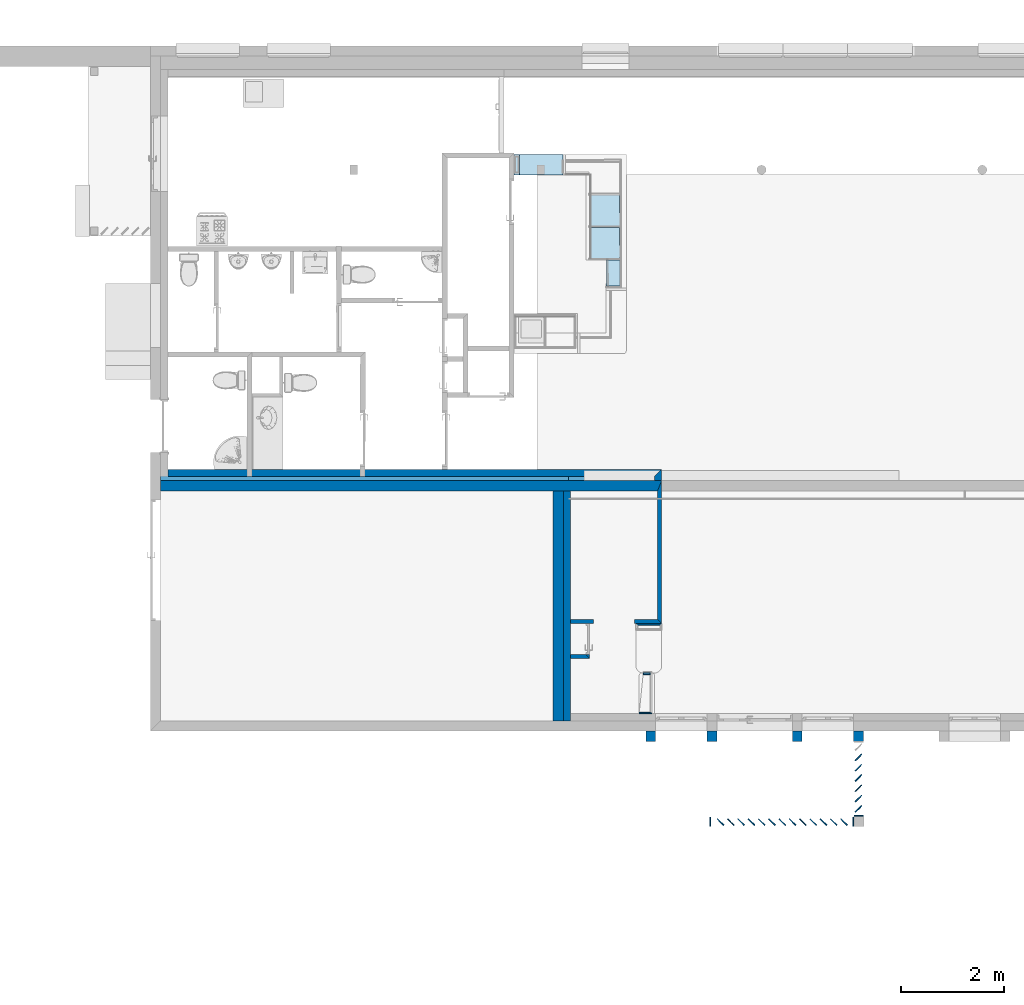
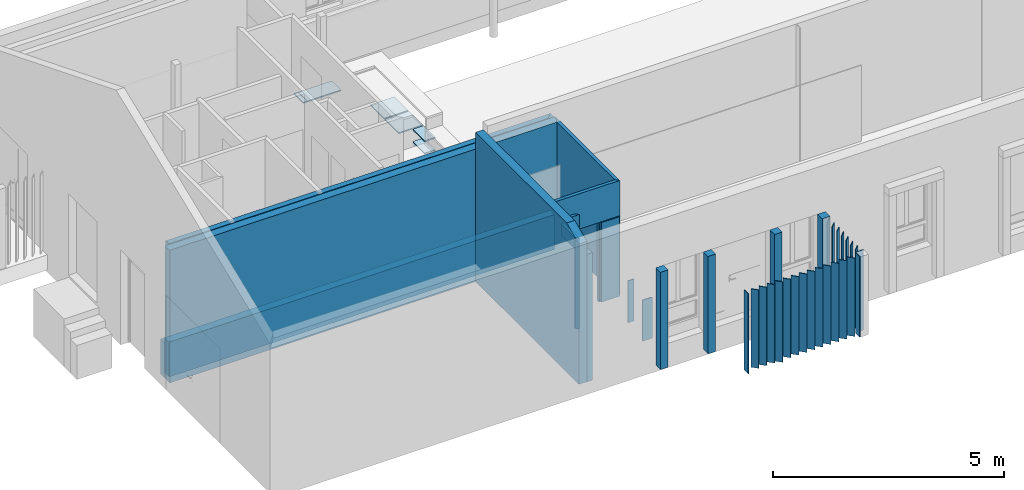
# One storey, part 2 of 34: 40 walls, 6 slabs, 2 openings.
"""IFC2X3 building model written with IfcOpenShell, lengths in metres."""

from ifc_helpers import new_model, entity, si_unit, converted_unit, derived_unit, money_unit, direction, frame, origin_with_axes, origin_2d_with_axis, place, context, subcontext, project, spatial, polyline, rectangle, outline, extrude, clip, halfspace, material, layer, layer_set, layer_usage, type_object, element, save


model = new_model("IFC2X3")

# Units and contexts
model_context = context("Model", 3, precision=1e-05, world=origin_with_axes(), true_north=direction((0.0, 1.0)))
body_context = subcontext(model_context, "Body", "Model", "MODEL_VIEW")
ifc_project = project(units=[si_unit("LENGTHUNIT", "METRE"), si_unit("AREAUNIT", "SQUARE_METRE"), si_unit("VOLUMEUNIT", "CUBIC_METRE"), converted_unit("PLANEANGLEUNIT", "DEGREE", entity("IfcPlaneAngleMeasure", 0.0174532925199), si_unit("PLANEANGLEUNIT", "RADIAN"), dimensions=[0, 0, 0, 0, 0, 0, 0]), money_unit("CHF"), converted_unit("TIMEUNIT", "Year", entity("IfcTimeMeasure", 31556926.0), si_unit("TIMEUNIT", "SECOND"), dimensions=[0, 0, 1, 0, 0, 0, 0]), si_unit("MASSUNIT", "GRAM", prefix="KILO"), si_unit("THERMODYNAMICTEMPERATUREUNIT", "DEGREE_CELSIUS"), si_unit("LUMINOUSINTENSITYUNIT", "LUMEN"), si_unit("ENERGYUNIT", "JOULE", prefix="MEGA"), derived_unit("THERMALCONDUCTANCEUNIT", [(si_unit("POWERUNIT", "WATT"), 1), (si_unit("LENGTHUNIT", "METRE"), -1), (si_unit("THERMODYNAMICTEMPERATUREUNIT", "KELVIN"), -1)]), derived_unit("SPECIFICHEATCAPACITYUNIT", [(si_unit("ENERGYUNIT", "JOULE"), 1), (si_unit("MASSUNIT", "GRAM", prefix="KILO"), -1), (si_unit("THERMODYNAMICTEMPERATUREUNIT", "KELVIN"), -1)]), derived_unit("MASSDENSITYUNIT", [(si_unit("MASSUNIT", "GRAM", prefix="KILO"), 1), (si_unit("VOLUMEUNIT", "CUBIC_METRE"), -1)])], contexts=[model_context])

# Site, building, storey
site_placement = place(None, origin_with_axes())
site = spatial("IfcSite", under=ifc_project, at=site_placement, Name="Site", CompositionType="ELEMENT")
building_placement = place(site_placement, origin_with_axes())
building = spatial("IfcBuilding", under=site, at=building_placement, Name="Bâtiment", CompositionType="ELEMENT")
storey_placement = place(building_placement, origin_with_axes())
storey = spatial("IfcBuildingStorey", under=building, at=storey_placement, Name="RDC", CompositionType="ELEMENT", Elevation=-5.32907e-15)

# Slabs
ifc_material_1 = material(Name="Sans Trame 1167258944")
ifc_layer_1 = layer(ifc_material_1, 0.03, ventilated="UNKNOWN")
ifc_layer_set_1 = layer_set([ifc_layer_1], Name="Sans Trame 1167258944 0.03")
ifc_layer_usage_1 = layer_usage(ifc_layer_set_1, "AXIS3", "NEGATIVE", 0.03)
slab_type_1 = type_object("IfcSlabType", Name="Sans Trame 1167258944 30", PredefinedType="FLOOR")
slab_1_placement = place(storey_placement, frame((1676.54077854, 187.170122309, 0.944996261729), z_axis=(0.0, 0.0, 1.0), x_axis=(1.0, 0.0, 0.0)))
element("IfcSlab", 1, at=slab_1_placement, inside=storey, type_object=slab_type_1, material=ifc_layer_usage_1, Name="Dalle-13", PredefinedType="FLOOR", context=body_context, shape_type="SweptSolid", body=[
    extrude(outline(polyline([(0.0, 0.0), (-0.599960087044, -0.00107291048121), (-0.598889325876, -0.599843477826), (0.00107078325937, -0.598770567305), (0.0, 0.0)])), frame((0.0, 0.0, -0.03), z_axis=(0.0, 0.0, 1.0), x_axis=(1.0, 0.0, 0.0)), (0.0, 0.0, 1.0), 0.03),
])
ifc_layer_usage_2 = layer_usage(ifc_layer_set_1, "AXIS3", "NEGATIVE", 0.03)
slab_2_placement = place(storey_placement, frame((1676.27164334, 186.539627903, 0.619992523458), z_axis=(0.0, 0.0, 1.0), x_axis=(1.0, 0.0, 0.0)))
element("IfcSlab", 2, at=slab_2_placement, inside=storey, type_object=slab_type_1, material=ifc_layer_usage_2, Name="Dalle-13", PredefinedType="FLOOR", context=body_context, shape_type="SweptSolid", body=[
    extrude(outline(polyline([(0.0, 0.0), (0.000692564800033, -0.512173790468), (0.27109865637, -0.512173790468), (0.270405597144, 0.0003656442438), (0.0, 0.0)])), frame((0.0, 0.0, -0.03), z_axis=(0.0, 0.0, 1.0), x_axis=(1.0, 0.0, 0.0)), (0.0, 0.0, 1.0), 0.03),
])
ifc_layer_usage_3 = layer_usage(ifc_layer_set_1, "AXIS3", "NEGATIVE", 0.03)
slab_3_placement = place(storey_placement, frame((1676.27164334, 186.539627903, 0.944996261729), z_axis=(0.0, 0.0, 1.0), x_axis=(1.0, 0.0, 0.0)))
element("IfcSlab", 3, at=slab_3_placement, inside=storey, type_object=slab_type_1, material=ifc_layer_usage_3, Name="Dalle-13", PredefinedType="FLOOR", context=body_context, shape_type="SweptSolid", body=[
    extrude(outline(polyline([(0.0, 0.0), (0.000692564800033, -0.512173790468), (0.27109865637, -0.512173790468), (0.270405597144, 0.0003656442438), (0.0, 0.0)])), frame((0.0, 0.0, -0.03), z_axis=(0.0, 0.0, 1.0), x_axis=(1.0, 0.0, 0.0)), (0.0, 0.0, 1.0), 0.03),
])
ifc_layer_2 = layer(ifc_material_1, 0.028, ventilated="UNKNOWN")
ifc_layer_set_2 = layer_set([ifc_layer_2], Name="Sans Trame 1167258944 0.028")
ifc_layer_usage_4 = layer_usage(ifc_layer_set_2, "AXIS3", "NEGATIVE", 0.028)
slab_type_2 = type_object("IfcSlabType", Name="Sans Trame 1167258944 28", PredefinedType="FLOOR")
slab_4_placement = place(storey_placement, frame((1674.59097684, 188.590088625, 1.27), z_axis=(0.0, 0.0, 1.0), x_axis=(1.0, 0.0, 0.0)))
element("IfcSlab", 4, at=slab_4_placement, inside=storey, type_object=slab_type_2, material=ifc_layer_usage_4, Name="Dalle-16", PredefinedType="FLOOR", context=body_context, shape_type="SweptSolid", body=[
    extrude(outline(polyline([(0.0, 0.0), (-0.100080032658, 0.0), (-0.100080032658, -0.400211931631), (0.0, -0.400188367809), (0.0, 0.0)])), frame((0.0, 0.0, -0.028), z_axis=(0.0, 0.0, 1.0), x_axis=(1.0, 0.0, 0.0)), (0.0, 0.0, 1.0), 0.028),
])
ifc_material_2 = material(Name="50 % 1167783752")
ifc_layer_3 = layer(ifc_material_2, 0.028, ventilated="UNKNOWN")
ifc_layer_set_3 = layer_set([ifc_layer_3], Name="50 % 1167783752 0.028")
ifc_layer_usage_5 = layer_usage(ifc_layer_set_3, "AXIS3", "NEGATIVE", 0.028)
slab_type_3 = type_object("IfcSlabType", Name="50 % 1167783752 28", PredefinedType="FLOOR")
slab_5_placement = place(storey_placement, frame((1675.43897685, 188.590087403, 1.27), z_axis=(0.0, 0.0, 1.0), x_axis=(1.0, 0.0, 0.0)))
element("IfcSlab", 5, at=slab_5_placement, inside=storey, type_object=slab_type_3, material=ifc_layer_usage_5, Name="Dalle-16", PredefinedType="FLOOR", context=body_context, shape_type="SweptSolid", body=[
    extrude(outline(polyline([(0.0, 0.0), (-0.847800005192, 1.2219437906e-06), (-0.847800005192, -0.400187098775), (9.41632778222e-05, -0.399977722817), (0.0, 0.0)])), frame((0.0, 0.0, -0.028), z_axis=(0.0, 0.0, 1.0), x_axis=(1.0, 0.0, 0.0)), (0.0, 0.0, 1.0), 0.028),
])
ifc_layer_4 = layer(ifc_material_2, 0.03, ventilated="UNKNOWN")
ifc_layer_set_4 = layer_set([ifc_layer_4], Name="50 % 1167783752 0.03")
ifc_layer_usage_6 = layer_usage(ifc_layer_set_4, "AXIS3", "NEGATIVE", 0.03)
slab_type_4 = type_object("IfcSlabType", Name="50 % 1167783752 30", PredefinedType="FLOOR")
slab_6_placement = place(storey_placement, frame((1676.54078561, 187.800121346, 0.944996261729), z_axis=(0.0, 0.0, 1.0), x_axis=(1.0, 0.0, 0.0)))
element("IfcSlab", 6, at=slab_6_placement, inside=storey, type_object=slab_type_4, material=ifc_layer_usage_6, Name="Dalle-13", PredefinedType="FLOOR", context=body_context, shape_type="SweptSolid", body=[
    extrude(outline(polyline([(0.0, 0.0), (-0.599960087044, -0.00107291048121), (-0.598889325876, -0.599843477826), (0.00107078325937, -0.598770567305), (0.0, 0.0)])), frame((0.0, 0.0, -0.03), z_axis=(0.0, 0.0, 1.0), x_axis=(1.0, 0.0, 0.0)), (0.0, 0.0, 1.0), 0.03),
])

# Walls
ifc_material_3 = material(Name="Diagonales 1167258944")
ifc_layer_5 = layer(ifc_material_3, 0.2, ventilated="UNKNOWN")
ifc_layer_set_5 = layer_set([ifc_layer_5], Name="Diagonales 1167258944 0.2")
ifc_layer_usage_7 = layer_usage(ifc_layer_set_5, "AXIS2", "POSITIVE", 0.0)
wall_type_1 = type_object("IfcWallType", Name="Diagonales 1167258944 200", PredefinedType="NOTDEFINED")
wall_1_placement = place(storey_placement, frame((1675.44729001, 177.38004191, 0.0), z_axis=(0.0, 0.0, 1.0), x_axis=(0.0, 1.0, 0.0)))
element("IfcWallStandardCase", 7, at=wall_1_placement, inside=storey, type_object=wall_type_1, material=ifc_layer_usage_7, Name="Mur-005", context=body_context, shape_type="Clipping", body=[
    clip(extrude(outline(polyline([(0.2, 0.0), (4.67, 0.0), (4.67, 0.2), (0.2, 0.2), (0.2, 0.0)])), origin_with_axes(), (0.0, 0.0, 1.0), 3.94000008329), halfspace(frame((-1.35194463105, 0.0, 3.00400550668), z_axis=(0.410400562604, 0.0, -0.911905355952), x_axis=(0.0, 1.0, 0.0)), True)),
])
ifc_layer_usage_8 = layer_usage(ifc_layer_set_5, "AXIS2", "POSITIVE", 0.0)
wall_2_placement = place(storey_placement, frame((1667.71629042, 182.25004191, 0.0), z_axis=(0.0, 0.0, 1.0), x_axis=(1.0, 0.0, 0.0)))
element("IfcWallStandardCase", 8, at=wall_2_placement, inside=storey, type_object=wall_type_1, material=ifc_layer_usage_8, Name="Mur-002", context=body_context, shape_type="SweptSolid", body=[
    extrude(outline(polyline([(0.0, 0.0), (9.62021639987, 0.0), (9.62021639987, 0.2), (0.0, 0.2), (0.0, 0.0)])), origin_with_axes(), (0.0, 0.0, 1.0), 0.92),
])
ifc_layer_usage_9 = layer_usage(ifc_layer_set_5, "AXIS2", "NEGATIVE", 0.0)
wall_3_placement = place(storey_placement, frame((1677.35650684, 182.05004191, 0.0), z_axis=(0.0, 0.0, 1.0), x_axis=(-1.0, 0.0, 0.0)))
element("IfcWallStandardCase", 9, at=wall_3_placement, inside=storey, type_object=wall_type_1, material=ifc_layer_usage_9, Name="Mur-005", context=body_context, shape_type="SweptSolid", body=[
    extrude(outline(polyline([(0.0, -0.2), (9.73921682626, -0.2), (9.73921682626, 0.0), (0.081, 0.0), (0.0, -0.2)])), origin_with_axes(), (0.0, 0.0, 1.0), 3.5),
])
ifc_layer_usage_10 = layer_usage(ifc_layer_set_5, "AXIS2", "POSITIVE", 0.0)
wall_4_placement = place(storey_placement, frame((1667.41729001, 182.25004191, 0.0), z_axis=(0.0, 0.0, 1.0), x_axis=(1.0, 0.0, 0.0)))
element("IfcWallStandardCase", 10, at=wall_4_placement, inside=storey, type_object=wall_type_1, material=ifc_layer_usage_10, Name="Mur-002", context=body_context, shape_type="SweptSolid", body=[
    extrude(outline(polyline([(0.2, 0.0), (8.13, 0.0), (8.13, 0.2), (0.2, 0.2), (0.2, 0.0)])), origin_with_axes(), (0.0, 0.0, 1.0), 0.92),
])
ifc_material_4 = material(Name="Isolation laine de pierre 378182646")
ifc_layer_6 = layer(ifc_material_4, 0.12, ventilated="UNKNOWN")
ifc_material_5 = material(Name="Plâtre lissé 291446788")
ifc_layer_7 = layer(ifc_material_5, 0.02, ventilated="UNKNOWN")
ifc_layer_set_6 = layer_set([ifc_layer_6, ifc_layer_7], Name="DOUBLAGE ISO + BA13 14 CM")
ifc_layer_usage_11 = layer_usage(ifc_layer_set_6, "AXIS2", "POSITIVE", 0.0)
wall_type_2 = type_object("IfcWallType", Name="DOUBLAGE ISO + BA13 14 CM 140", PredefinedType="NOTDEFINED")
wall_5_placement = place(storey_placement, frame((1675.44729001, 182.05004191, 0.0), z_axis=(0.0, 0.0, 1.0), x_axis=(0.0, -1.0, 0.0)))
element("IfcWallStandardCase", 11, at=wall_5_placement, inside=storey, type_object=wall_type_2, material=ifc_layer_usage_11, Name="Mur-004", context=body_context, shape_type="SweptSolid", body=[
    extrude(outline(polyline([(0.0, 0.0), (4.47, 0.0), (4.47, 0.14), (0.0, 0.14), (0.0, 0.0)])), origin_with_axes(), (0.0, 0.0, 1.0), 3.3599999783),
])
ifc_layer_usage_12 = layer_usage(ifc_layer_set_6, "AXIS2", "POSITIVE", -0.14)
wall_6_placement = place(storey_placement, frame((1677.35650682, 182.47004191, 0.47), z_axis=(0.0, 0.0, 1.0), x_axis=(0.0, -1.0, 0.0)))
element("IfcWallStandardCase", 12, at=wall_6_placement, inside=storey, type_object=wall_type_2, material=ifc_layer_usage_12, Name="Mur-004", context=body_context, shape_type="SweptSolid", body=[
    extrude(outline(polyline([(0.14, -0.14), (0.22, -0.14), (0.22, 0.0), (0.0, 0.0), (0.14, -0.14)])), origin_with_axes(), (0.0, 0.0, 1.0), 2.98),
])
ifc_layer_usage_13 = layer_usage(ifc_layer_set_6, "AXIS2", "POSITIVE", -0.14)
wall_7_placement = place(storey_placement, frame((1667.61729001, 182.47004191, 0.47), z_axis=(0.0, 0.0, 1.0), x_axis=(1.0, 0.0, 0.0)))
element("IfcWallStandardCase", 13, at=wall_7_placement, inside=storey, type_object=wall_type_2, material=ifc_layer_usage_13, Name="Mur-004", context=body_context, shape_type="SweptSolid", body=[
    extrude(outline(polyline([(0.14, -0.14), (9.59921680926, -0.14), (9.73921680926, 0.0), (0.14, 0.0), (0.14, -0.14)])), origin_with_axes(), (0.0, 0.0, 1.0), 2.98),
])
ifc_material_6 = material(Name="Métal 368073405")
ifc_layer_8 = layer(ifc_material_6, 0.02, ventilated="UNKNOWN")
ifc_layer_set_7 = layer_set([ifc_layer_8], Name="Métal 368073405 0.02")
ifc_layer_usage_14 = layer_usage(ifc_layer_set_7, "AXIS2", "POSITIVE", 0.0)
wall_type_3 = type_object("IfcWallType", Name="Métal 368073405 20", PredefinedType="NOTDEFINED")
wall_8_placement = place(storey_placement, frame((1680.369856, 175.55753555, 0.500875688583), z_axis=(0.0, 0.0, 1.0), x_axis=(-0.707106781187, 0.707106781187, 0.0)))
element("IfcWallStandardCase", 14, at=wall_8_placement, inside=storey, type_object=wall_type_3, material=ifc_layer_usage_14, Name="Mur-011", context=body_context, shape_type="SweptSolid", body=[
    extrude(outline(polyline([(0.0, 0.0), (0.17446052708, 0.0), (0.17446052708, 0.02), (0.0, 0.02), (0.0, 0.0)])), origin_with_axes(), (0.0, 0.0, 1.0), 2.06912431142),
])
ifc_layer_usage_15 = layer_usage(ifc_layer_set_7, "AXIS2", "POSITIVE", 0.0)
wall_9_placement = place(storey_placement, frame((1681.1256089, 176.600814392, 0.500875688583), z_axis=(0.0, 0.0, 1.0), x_axis=(0.707106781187, 0.707106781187, 0.0)))
element("IfcWallStandardCase", 15, at=wall_9_placement, inside=storey, type_object=wall_type_3, material=ifc_layer_usage_15, Name="Mur-011", context=body_context, shape_type="SweptSolid", body=[
    extrude(outline(polyline([(0.0, 0.0), (0.17446052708, 0.0), (0.17446052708, 0.02), (0.0, 0.02), (0.0, 0.0)])), origin_with_axes(), (0.0, 0.0, 1.0), 2.06912431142),
])
ifc_layer_usage_16 = layer_usage(ifc_layer_set_7, "AXIS2", "POSITIVE", 0.0)
wall_10_placement = place(storey_placement, frame((1680.769856, 175.55753555, 0.500875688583), z_axis=(0.0, 0.0, 1.0), x_axis=(-0.707106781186, 0.707106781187, 0.0)))
element("IfcWallStandardCase", 16, at=wall_10_placement, inside=storey, type_object=wall_type_3, material=ifc_layer_usage_16, Name="Mur-011", context=body_context, shape_type="SweptSolid", body=[
    extrude(outline(polyline([(0.0, 0.0), (0.17446052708, 0.0), (0.17446052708, 0.02), (0.0, 0.02), (0.0, 0.0)])), origin_with_axes(), (0.0, 0.0, 1.0), 2.06912431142),
])
ifc_layer_usage_17 = layer_usage(ifc_layer_set_7, "AXIS2", "POSITIVE", 0.0)
wall_11_placement = place(storey_placement, frame((1678.769856, 175.55753555, 0.500875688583), z_axis=(0.0, 0.0, 1.0), x_axis=(-0.707106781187, 0.707106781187, 0.0)))
element("IfcWallStandardCase", 17, at=wall_11_placement, inside=storey, type_object=wall_type_3, material=ifc_layer_usage_17, Name="Mur-011", context=body_context, shape_type="SweptSolid", body=[
    extrude(outline(polyline([(0.0, 0.0), (0.17446052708, 0.0), (0.17446052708, 0.02), (0.0, 0.02), (0.0, 0.0)])), origin_with_axes(), (0.0, 0.0, 1.0), 2.06912431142),
])
ifc_layer_usage_18 = layer_usage(ifc_layer_set_7, "AXIS2", "POSITIVE", 0.0)
wall_12_placement = place(storey_placement, frame((1678.969856, 175.55753555, 0.500875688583), z_axis=(0.0, 0.0, 1.0), x_axis=(-0.707106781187, 0.707106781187, 0.0)))
element("IfcWallStandardCase", 18, at=wall_12_placement, inside=storey, type_object=wall_type_3, material=ifc_layer_usage_18, Name="Mur-011", context=body_context, shape_type="SweptSolid", body=[
    extrude(outline(polyline([(0.0, 0.0), (0.17446052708, 0.0), (0.17446052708, 0.02), (0.0, 0.02), (0.0, 0.0)])), origin_with_axes(), (0.0, 0.0, 1.0), 2.06912431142),
])
ifc_layer_usage_19 = layer_usage(ifc_layer_set_7, "AXIS2", "POSITIVE", 0.0)
wall_13_placement = place(storey_placement, frame((1681.1256089, 175.800814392, 0.500875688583), z_axis=(0.0, 0.0, 1.0), x_axis=(0.707106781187, 0.707106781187, 0.0)))
element("IfcWallStandardCase", 19, at=wall_13_placement, inside=storey, type_object=wall_type_3, material=ifc_layer_usage_19, Name="Mur-011", context=body_context, shape_type="SweptSolid", body=[
    extrude(outline(polyline([(0.0, 0.0), (0.17446052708, 0.0), (0.17446052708, 0.02), (0.0, 0.02), (0.0, 0.0)])), origin_with_axes(), (0.0, 0.0, 1.0), 2.06912431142),
])
ifc_layer_usage_20 = layer_usage(ifc_layer_set_7, "AXIS2", "POSITIVE", 0.0)
wall_14_placement = place(storey_placement, frame((1681.1256089, 176.000814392, 0.500875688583), z_axis=(0.0, 0.0, 1.0), x_axis=(0.707106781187, 0.707106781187, 0.0)))
element("IfcWallStandardCase", 20, at=wall_14_placement, inside=storey, type_object=wall_type_3, material=ifc_layer_usage_20, Name="Mur-011", context=body_context, shape_type="SweptSolid", body=[
    extrude(outline(polyline([(0.0, 0.0), (0.17446052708, 0.0), (0.17446052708, 0.02), (0.0, 0.02), (0.0, 0.0)])), origin_with_axes(), (0.0, 0.0, 1.0), 2.06912431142),
])
ifc_layer_usage_21 = layer_usage(ifc_layer_set_7, "AXIS2", "POSITIVE", 0.0)
wall_15_placement = place(storey_placement, frame((1680.169856, 175.55753555, 0.500875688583), z_axis=(0.0, 0.0, 1.0), x_axis=(-0.707106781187, 0.707106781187, 0.0)))
element("IfcWallStandardCase", 21, at=wall_15_placement, inside=storey, type_object=wall_type_3, material=ifc_layer_usage_21, Name="Mur-011", context=body_context, shape_type="SweptSolid", body=[
    extrude(outline(polyline([(0.0, 0.0), (0.17446052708, 0.0), (0.17446052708, 0.02), (0.0, 0.02), (0.0, 0.0)])), origin_with_axes(), (0.0, 0.0, 1.0), 2.06912431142),
])
ifc_layer_usage_22 = layer_usage(ifc_layer_set_7, "AXIS2", "POSITIVE", 0.0)
wall_16_placement = place(storey_placement, frame((1680.569856, 175.55753555, 0.500875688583), z_axis=(0.0, 0.0, 1.0), x_axis=(-0.707106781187, 0.707106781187, 0.0)))
element("IfcWallStandardCase", 22, at=wall_16_placement, inside=storey, type_object=wall_type_3, material=ifc_layer_usage_22, Name="Mur-011", context=body_context, shape_type="SweptSolid", body=[
    extrude(outline(polyline([(0.0, 0.0), (0.17446052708, 0.0), (0.17446052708, 0.02), (0.0, 0.02), (0.0, 0.0)])), origin_with_axes(), (0.0, 0.0, 1.0), 2.06912431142),
])
ifc_layer_usage_23 = layer_usage(ifc_layer_set_7, "AXIS2", "POSITIVE", 0.0)
wall_17_placement = place(storey_placement, frame((1679.969856, 175.55753555, 0.500875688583), z_axis=(0.0, 0.0, 1.0), x_axis=(-0.707106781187, 0.707106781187, 0.0)))
element("IfcWallStandardCase", 23, at=wall_17_placement, inside=storey, type_object=wall_type_3, material=ifc_layer_usage_23, Name="Mur-011", context=body_context, shape_type="SweptSolid", body=[
    extrude(outline(polyline([(0.0, 0.0), (0.17446052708, 0.0), (0.17446052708, 0.02), (0.0, 0.02), (0.0, 0.0)])), origin_with_axes(), (0.0, 0.0, 1.0), 2.06912431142),
])
ifc_layer_usage_24 = layer_usage(ifc_layer_set_7, "AXIS2", "POSITIVE", 0.0)
wall_18_placement = place(storey_placement, frame((1679.769856, 175.55753555, 0.500875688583), z_axis=(0.0, 0.0, 1.0), x_axis=(-0.707106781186, 0.707106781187, 0.0)))
element("IfcWallStandardCase", 24, at=wall_18_placement, inside=storey, type_object=wall_type_3, material=ifc_layer_usage_24, Name="Mur-011", context=body_context, shape_type="SweptSolid", body=[
    extrude(outline(polyline([(0.0, 0.0), (0.17446052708, 0.0), (0.17446052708, 0.02), (0.0, 0.02), (0.0, 0.0)])), origin_with_axes(), (0.0, 0.0, 1.0), 2.06912431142),
])
ifc_layer_usage_25 = layer_usage(ifc_layer_set_7, "AXIS2", "POSITIVE", 0.0)
wall_19_placement = place(storey_placement, frame((1681.1256089, 176.200814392, 0.500875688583), z_axis=(0.0, 0.0, 1.0), x_axis=(0.707106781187, 0.707106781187, 0.0)))
element("IfcWallStandardCase", 25, at=wall_19_placement, inside=storey, type_object=wall_type_3, material=ifc_layer_usage_25, Name="Mur-011", context=body_context, shape_type="SweptSolid", body=[
    extrude(outline(polyline([(0.0, 0.0), (0.17446052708, 0.0), (0.17446052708, 0.02), (0.0, 0.02), (0.0, 0.0)])), origin_with_axes(), (0.0, 0.0, 1.0), 2.06912431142),
])
ifc_layer_usage_26 = layer_usage(ifc_layer_set_7, "AXIS2", "POSITIVE", 0.0)
wall_20_placement = place(storey_placement, frame((1679.569856, 175.55753555, 0.500875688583), z_axis=(0.0, 0.0, 1.0), x_axis=(-0.707106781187, 0.707106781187, 0.0)))
element("IfcWallStandardCase", 26, at=wall_20_placement, inside=storey, type_object=wall_type_3, material=ifc_layer_usage_26, Name="Mur-011", context=body_context, shape_type="SweptSolid", body=[
    extrude(outline(polyline([(0.0, 0.0), (0.17446052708, 0.0), (0.17446052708, 0.02), (0.0, 0.02), (0.0, 0.0)])), origin_with_axes(), (0.0, 0.0, 1.0), 2.06912431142),
])
ifc_layer_usage_27 = layer_usage(ifc_layer_set_7, "AXIS2", "POSITIVE", 0.0)
wall_21_placement = place(storey_placement, frame((1679.369856, 175.55753555, 0.500875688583), z_axis=(0.0, 0.0, 1.0), x_axis=(-0.707106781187, 0.707106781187, 0.0)))
element("IfcWallStandardCase", 27, at=wall_21_placement, inside=storey, type_object=wall_type_3, material=ifc_layer_usage_27, Name="Mur-011", context=body_context, shape_type="SweptSolid", body=[
    extrude(outline(polyline([(0.0, 0.0), (0.17446052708, 0.0), (0.17446052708, 0.02), (0.0, 0.02), (0.0, 0.0)])), origin_with_axes(), (0.0, 0.0, 1.0), 2.06912431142),
])
ifc_layer_usage_28 = layer_usage(ifc_layer_set_7, "AXIS2", "POSITIVE", 0.0)
wall_22_placement = place(storey_placement, frame((1681.1256089, 176.400814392, 0.500875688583), z_axis=(0.0, 0.0, 1.0), x_axis=(0.707106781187, 0.707106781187, 0.0)))
element("IfcWallStandardCase", 28, at=wall_22_placement, inside=storey, type_object=wall_type_3, material=ifc_layer_usage_28, Name="Mur-011", context=body_context, shape_type="SweptSolid", body=[
    extrude(outline(polyline([(0.0, 0.0), (0.17446052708, 0.0), (0.17446052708, 0.02), (0.0, 0.02), (0.0, 0.0)])), origin_with_axes(), (0.0, 0.0, 1.0), 2.06912431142),
])
ifc_layer_usage_29 = layer_usage(ifc_layer_set_7, "AXIS2", "POSITIVE", 0.0)
wall_23_placement = place(storey_placement, frame((1680.969856, 175.55753555, 0.500875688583), z_axis=(0.0, 0.0, 1.0), x_axis=(-0.707106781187, 0.707106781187, 0.0)))
element("IfcWallStandardCase", 29, at=wall_23_placement, inside=storey, type_object=wall_type_3, material=ifc_layer_usage_29, Name="Mur-011", context=body_context, shape_type="SweptSolid", body=[
    extrude(outline(polyline([(0.0, 0.0), (0.17446052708, 0.0), (0.17446052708, 0.02), (0.0, 0.02), (0.0, 0.0)])), origin_with_axes(), (0.0, 0.0, 1.0), 2.06912431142),
])
ifc_layer_usage_30 = layer_usage(ifc_layer_set_7, "AXIS2", "POSITIVE", 0.0)
wall_24_placement = place(storey_placement, frame((1681.1256089, 176.800814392, 0.500875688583), z_axis=(0.0, 0.0, 1.0), x_axis=(0.707106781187, 0.707106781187, 0.0)))
element("IfcWallStandardCase", 30, at=wall_24_placement, inside=storey, type_object=wall_type_3, material=ifc_layer_usage_30, Name="Mur-011", context=body_context, shape_type="SweptSolid", body=[
    extrude(outline(polyline([(0.0, 0.0), (0.17446052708, 0.0), (0.17446052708, 0.02), (0.0, 0.02), (0.0, 0.0)])), origin_with_axes(), (0.0, 0.0, 1.0), 2.06912431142),
])
ifc_layer_usage_31 = layer_usage(ifc_layer_set_7, "AXIS2", "POSITIVE", 0.0)
wall_25_placement = place(storey_placement, frame((1678.569856, 175.55753555, 0.500875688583), z_axis=(0.0, 0.0, 1.0), x_axis=(-0.707106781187, 0.707106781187, 0.0)))
element("IfcWallStandardCase", 31, at=wall_25_placement, inside=storey, type_object=wall_type_3, material=ifc_layer_usage_31, Name="Mur-011", context=body_context, shape_type="SweptSolid", body=[
    extrude(outline(polyline([(0.0, 0.0), (0.17446052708, 0.0), (0.17446052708, 0.02), (0.0, 0.02), (0.0, 0.0)])), origin_with_axes(), (0.0, 0.0, 1.0), 2.06912431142),
])
ifc_layer_usage_32 = layer_usage(ifc_layer_set_7, "AXIS2", "POSITIVE", 0.0)
wall_26_placement = place(storey_placement, frame((1679.169856, 175.55753555, 0.45), z_axis=(0.0, 0.0, 1.0), x_axis=(-0.707106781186, 0.707106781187, 0.0)))
element("IfcWallStandardCase", 32, at=wall_26_placement, inside=storey, type_object=wall_type_3, material=ifc_layer_usage_32, Name="Mur-011", context=body_context, shape_type="SweptSolid", body=[
    extrude(outline(polyline([(0.0, 0.0), (0.17446052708, 0.0), (0.17446052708, 0.02), (0.0, 0.02), (0.0, 0.0)])), origin_with_axes(), (0.0, 0.0, 1.0), 2.12),
])
ifc_layer_usage_33 = layer_usage(ifc_layer_set_7, "AXIS2", "POSITIVE", 0.0)
wall_27_placement = place(storey_placement, frame((1678.30817489, 175.531986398, 0.45), z_axis=(0.0, 0.0, 1.0), x_axis=(0.0, 1.0, 0.0)))
element("IfcWallStandardCase", 33, at=wall_27_placement, inside=storey, type_object=wall_type_3, material=ifc_layer_usage_33, Name="Mur-011", context=body_context, shape_type="SweptSolid", body=[
    extrude(outline(polyline([(0.0, 0.0), (0.17446052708, 0.0), (0.17446052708, 0.02), (0.0, 0.02), (0.0, 0.0)])), origin_with_axes(), (0.0, 0.0, 1.0), 2.12),
])
ifc_layer_usage_34 = layer_usage(ifc_layer_set_7, "AXIS2", "POSITIVE", 0.0)
wall_28_placement = place(storey_placement, frame((1681.08729001, 175.531986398, 0.45), z_axis=(0.0, 0.0, 1.0), x_axis=(0.0, 1.0, 0.0)))
element("IfcWallStandardCase", 34, at=wall_28_placement, inside=storey, type_object=wall_type_3, material=ifc_layer_usage_34, Name="Mur-011", context=body_context, shape_type="SweptSolid", body=[
    extrude(outline(polyline([(0.0, 0.0), (0.17446052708, 0.0), (0.17446052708, 0.02), (0.0, 0.02), (0.0, 0.0)])), origin_with_axes(), (0.0, 0.0, 1.0), 2.12),
])
ifc_layer_usage_35 = layer_usage(ifc_layer_set_7, "AXIS2", "POSITIVE", 0.0)
wall_29_placement = place(storey_placement, frame((1681.10005975, 175.725296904, 0.45), z_axis=(0.0, 0.0, 1.0), x_axis=(1.0, 0.0, 0.0)))
element("IfcWallStandardCase", 35, at=wall_29_placement, inside=storey, type_object=wall_type_3, material=ifc_layer_usage_35, Name="Mur-011", context=body_context, shape_type="SweptSolid", body=[
    extrude(outline(polyline([(0.0, 0.0), (0.17446052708, 0.0), (0.17446052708, 0.02), (0.0, 0.02), (0.0, 0.0)])), origin_with_axes(), (0.0, 0.0, 1.0), 2.12),
])
ifc_layer_9 = layer(ifc_material_3, 0.19, ventilated="UNKNOWN")
ifc_layer_set_8 = layer_set([ifc_layer_9], Name="Diagonales 1167258944 0.19")
ifc_layer_usage_36 = layer_usage(ifc_layer_set_8, "AXIS2", "NEGATIVE", 0.0)
wall_type_4 = type_object("IfcWallType", Name="Diagonales 1167258944 190", PredefinedType="NOTDEFINED")
wall_30_placement = place(storey_placement, frame((1680.08729001, 177.38004191, 0.0), z_axis=(0.0, 0.0, 1.0), x_axis=(0.0, -1.0, 0.0)))
element("IfcWallStandardCase", 36, at=wall_30_placement, inside=storey, type_object=wall_type_4, material=ifc_layer_usage_36, Name="Mur-011", context=body_context, shape_type="SweptSolid", body=[
    extrude(outline(polyline([(0.0, -0.19), (0.2, -0.19), (0.2, 0.0), (0.0, 0.0), (0.0, -0.19)])), origin_with_axes(), (0.0, 0.0, 1.0), 2.57),
])
ifc_layer_usage_37 = layer_usage(ifc_layer_set_8, "AXIS2", "NEGATIVE", 0.0)
wall_31_placement = place(storey_placement, frame((1677.23729001, 177.38004191, 0.0), z_axis=(0.0, 0.0, 1.0), x_axis=(0.0, -1.0, 0.0)))
element("IfcWallStandardCase", 37, at=wall_31_placement, inside=storey, type_object=wall_type_4, material=ifc_layer_usage_37, Name="Mur-013", context=body_context, shape_type="SweptSolid", body=[
    extrude(outline(polyline([(0.0, -0.19), (0.2, -0.19), (0.2, 0.0), (0.0, 0.0), (0.0, -0.19)])), origin_with_axes(), (0.0, 0.0, 1.0), 2.57),
])
ifc_layer_usage_38 = layer_usage(ifc_layer_set_8, "AXIS2", "NEGATIVE", 0.0)
wall_32_placement = place(storey_placement, frame((1681.27729001, 177.38004191, 0.0), z_axis=(0.0, 0.0, 1.0), x_axis=(0.0, -1.0, 0.0)))
element("IfcWallStandardCase", 38, at=wall_32_placement, inside=storey, type_object=wall_type_4, material=ifc_layer_usage_38, Name="Mur-013", context=body_context, shape_type="SweptSolid", body=[
    extrude(outline(polyline([(0.0, -0.19), (0.2, -0.19), (0.2, 0.0), (0.0, 0.0), (0.0, -0.19)])), origin_with_axes(), (0.0, 0.0, 1.0), 2.57),
])
ifc_layer_usage_39 = layer_usage(ifc_layer_set_8, "AXIS2", "POSITIVE", 0.0)
wall_33_placement = place(storey_placement, frame((1678.23729001, 177.38004191, 0.0), z_axis=(0.0, 0.0, 1.0), x_axis=(0.0, -1.0, 0.0)))
element("IfcWallStandardCase", 39, at=wall_33_placement, inside=storey, type_object=wall_type_4, material=ifc_layer_usage_39, Name="Mur-012", context=body_context, shape_type="SweptSolid", body=[
    extrude(outline(polyline([(0.0, 0.0), (0.2, 0.0), (0.2, 0.19), (0.0, 0.19), (0.0, 0.0)])), origin_with_axes(), (0.0, 0.0, 1.0), 2.57),
])
ifc_material_7 = material(Name="Plâtre cloisons 1818619258")
ifc_layer_10 = layer(ifc_material_7, 0.03, ventilated="UNKNOWN")
ifc_layer_set_9 = layer_set([ifc_layer_10], Name="Plâtre cloisons 1818619258 0.03")
ifc_layer_usage_40 = layer_usage(ifc_layer_set_9, "AXIS2", "NEGATIVE", 0.0)
wall_type_5 = type_object("IfcWallType", Name="Plâtre cloisons 1818619258 30", PredefinedType="NOTDEFINED")
wall_34_placement = place(storey_placement, frame((1676.99555315, 178.511041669, 0.47), z_axis=(0.0, 0.0, 1.0), x_axis=(1.0, 0.0, 0.0)))
element("IfcWallStandardCase", 40, at=wall_34_placement, inside=storey, type_object=wall_type_5, material=ifc_layer_usage_40, Name="Mur-010", context=body_context, shape_type="SweptSolid", body=[
    extrude(outline(polyline([(0.0, -0.03), (0.141957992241, -0.03), (0.141957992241, 0.0), (0.0, 0.0), (0.0, -0.03)])), origin_with_axes(), (0.0, 0.0, 1.0), 1.1),
])
ifc_layer_usage_41 = layer_usage(ifc_layer_set_9, "AXIS2", "POSITIVE", 0.0)
wall_35_placement = place(storey_placement, frame((1676.91855457, 177.72004191, 0.47), z_axis=(0.0, 0.0, 1.0), x_axis=(1.0, 0.0, 0.0)))
element("IfcWallStandardCase", 41, at=wall_35_placement, inside=storey, type_object=wall_type_5, material=ifc_layer_usage_41, Name="Mur-011", context=body_context, shape_type="SweptSolid", body=[
    extrude(outline(polyline([(0.0, 0.0), (0.248956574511, 0.0), (0.218956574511, 0.03), (0.0, 0.03), (0.0, 0.0)])), origin_with_axes(), (0.0, 0.0, 1.0), 1.08),
])
ifc_layer_usage_42 = layer_usage(ifc_layer_set_9, "AXIS2", "NEGATIVE", 0.0)
wall_36_placement = place(storey_placement, frame((1676.85650683, 179.46904191, 0.47), z_axis=(0.0, 0.0, 1.0), x_axis=(1.0, 0.0, 0.0)))
element("IfcWallStandardCase", 42, at=wall_36_placement, inside=storey, type_object=wall_type_5, material=ifc_layer_usage_42, Name="Mur-010", context=body_context, shape_type="SweptSolid", body=[
    extrude(outline(polyline([(0.03, -0.03), (0.470000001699, -0.03), (0.500000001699, 0.0), (0.0, 0.0), (0.03, -0.03)])), origin_with_axes(), (0.0, 0.0, 1.0), 2.1),
])

# Wall, opening
ifc_layer_11 = layer(ifc_material_5, 0.018, ventilated="UNKNOWN")
ifc_material_8 = material(Name="Isolation laine de pierre 307970822")
ifc_layer_12 = layer(ifc_material_8, 0.045, ventilated="UNKNOWN")
ifc_layer_13 = layer(ifc_material_5, 0.018, ventilated="UNKNOWN")
ifc_layer_set_10 = layer_set([ifc_layer_11, ifc_layer_12, ifc_layer_13], Name="CLOISON 10")
ifc_layer_usage_43 = layer_usage(ifc_layer_set_10, "AXIS2", "POSITIVE", 0.0)
wall_type_6 = type_object("IfcWallType", Name="CLOISON 10 81", PredefinedType="NOTDEFINED")
wall_37_placement = place(storey_placement, frame((1677.35650734, 179.55004191, 0.47), z_axis=(0.0, 0.0, 1.0), x_axis=(-1.0, 0.0, 0.0)))
wall_37 = element("IfcWallStandardCase", 43, at=wall_37_placement, inside=storey, type_object=wall_type_6, material=ifc_layer_usage_43, Name="Mur-010", context=body_context, shape_type="SweptSolid", body=[
    extrude(outline(polyline([(0.0810004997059, 0.0), (1.76921732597, 0.0), (1.76921732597, 0.081), (4.99705834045e-07, 0.081), (0.0810004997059, 0.0)])), origin_with_axes(), (0.0, 0.0, 1.0), 3.03),
])
opening_1_placement = place(wall_37_placement, frame((0.925108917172, 0.0, 0.0), z_axis=(0.0, 0.0, 1.0), x_axis=(1.0, 0.0, 0.0)))
element("IfcOpeningElement", 44, at=opening_1_placement, cuts=wall_37, Name="Por-004", context=body_context, shape_type="SweptSolid", body=[
    extrude(rectangle(XDim=0.8, YDim=2.1, at=origin_2d_with_axis()), frame((0.0, 0.0, 1.05), z_axis=(0.0, 1.0, 0.0), x_axis=(1.0, 0.0, 0.0)), (0.0, 0.0, -1.0), 0.081),
    extrude(rectangle(XDim=0.8, YDim=2.1, at=origin_2d_with_axis()), frame((0.0, 0.0, 1.05), z_axis=(0.0, -1.0, 0.0), x_axis=(1.0, 0.0, 0.0)), (0.0, 0.0, -1.0), 0.081),
])

# Wall
ifc_layer_usage_44 = layer_usage(ifc_layer_set_10, "AXIS2", "POSITIVE", 0.0)
wall_38_placement = place(storey_placement, frame((1677.35650684, 179.55004191, 0.47), z_axis=(0.0, 0.0, 1.0), x_axis=(0.0, 1.0, 0.0)))
element("IfcWallStandardCase", 45, at=wall_38_placement, inside=storey, type_object=wall_type_6, material=ifc_layer_usage_44, Name="Mur-010", context=body_context, shape_type="SweptSolid", body=[
    extrude(outline(polyline([(-0.0809999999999, 0.0), (2.7, 0.0), (2.5, 0.081), (0.0, 0.081), (-0.0809999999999, 0.0)])), origin_with_axes(), (0.0, 0.0, 1.0), 3.03),
])

# Wall, opening
ifc_layer_14 = layer(ifc_material_5, 0.027, ventilated="UNKNOWN")
ifc_layer_15 = layer(ifc_material_8, 0.032, ventilated="UNKNOWN")
ifc_layer_16 = layer(ifc_material_5, 0.0113, ventilated="UNKNOWN")
ifc_layer_set_11 = layer_set([ifc_layer_14, ifc_layer_15, ifc_layer_16], Name="Cloison: Gaine TECH 72/45")
ifc_layer_usage_45 = layer_usage(ifc_layer_set_11, "AXIS2", "NEGATIVE", 0.0)
wall_type_7 = type_object("IfcWallType", Name="Cloison: Gaine TECH 72/45  70", PredefinedType="NOTDEFINED")
wall_39_placement = place(storey_placement, frame((1675.95729001, 179.55004191, 0.47), z_axis=(0.0, 0.0, 1.0), x_axis=(0.0, -1.0, 0.0)))
wall_39 = element("IfcWallStandardCase", 46, at=wall_39_placement, inside=storey, type_object=wall_type_7, material=ifc_layer_usage_45, Name="Mur-010", context=body_context, shape_type="SweptSolid", body=[
    extrude(outline(polyline([(0.081, -0.0703), (0.6827, -0.0703), (0.753, 0.0), (0.081, 0.0), (0.081, -0.0703)])), origin_with_axes(), (0.0, 0.0, 1.0), 2.40444223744),
])
opening_2_placement = place(wall_39_placement, frame((0.379, 0.0, 0.0), z_axis=(0.0, 0.0, 1.0), x_axis=(1.0, 0.0, 0.0)))
element("IfcOpeningElement", 47, at=opening_2_placement, cuts=wall_39, Name="Por-004", context=body_context, shape_type="SweptSolid", body=[
    extrude(rectangle(XDim=0.596, YDim=2.1, at=origin_2d_with_axis()), frame((0.0, -0.0703, 1.05), z_axis=(0.0, -1.0, 0.0), x_axis=(-1.0, 0.0, 0.0)), (0.0, 0.0, -1.0), 0.2109),
])

# Wall
ifc_layer_usage_46 = layer_usage(ifc_layer_set_11, "AXIS2", "NEGATIVE", 0.0)
wall_40_placement = place(storey_placement, frame((1675.95729001, 178.79704191, 0.47), z_axis=(0.0, 0.0, 1.0), x_axis=(-1.0, 0.0, 0.0)))
element("IfcWallStandardCase", 48, at=wall_40_placement, inside=storey, type_object=wall_type_7, material=ifc_layer_usage_46, Name="Mur-011", context=body_context, shape_type="SweptSolid", body=[
    extrude(outline(polyline([(0.0703, -0.0703), (0.37, -0.0703), (0.37, 0.0), (0.0, 0.0), (0.0703, -0.0703)])), origin_with_axes(), (0.0, 0.0, 1.0), 3.03),
])

save(model, "model.ifc")
